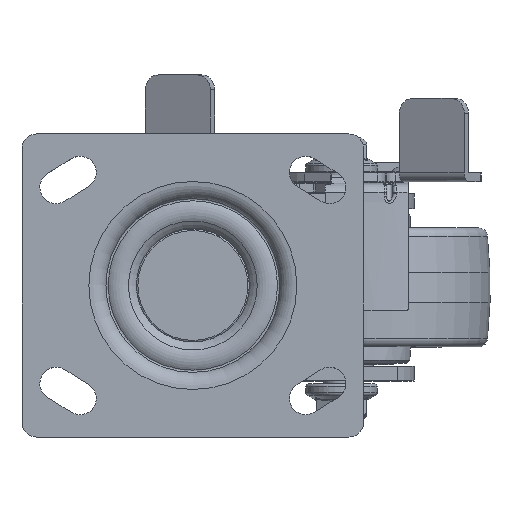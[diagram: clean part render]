
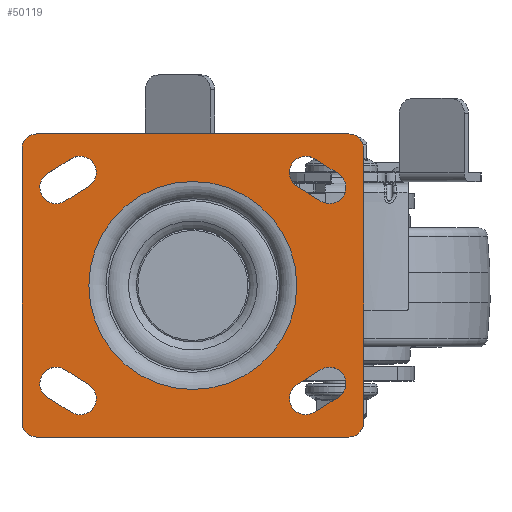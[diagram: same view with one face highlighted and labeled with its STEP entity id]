
A CAD part, top view. The second image highlights one B-rep face of the part: STEP entity #50119.
In plain terms, the highlighted planar face has unit normal (0, 0, 1).
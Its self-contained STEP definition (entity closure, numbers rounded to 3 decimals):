
#48862=CARTESIAN_POINT('',(-96.,576.541,6.899));
#48863=VERTEX_POINT('',#48862);
#48870=CARTESIAN_POINT('',(-88.,571.541,6.899));
#48871=VERTEX_POINT('',#48870);
#48872=CARTESIAN_POINT('',(-88.,571.541,6.899));
#48873=DIRECTION('',(-0.848,0.53,0.0));
#48874=VECTOR('',#48873,9.434);
#48875=LINE('',#48872,#48874);
#48876=EDGE_CURVE('',#48871,#48863,#48875,.T.);
#48902=CARTESIAN_POINT('',(-82.17,580.869,6.899));
#48903=VERTEX_POINT('',#48902);
#48904=CARTESIAN_POINT('',(-85.085,576.205,6.899));
#48905=DIRECTION('',(0.0,0.0,-1.0));
#48906=DIRECTION('',(1.0,0.0,0.0));
#48907=AXIS2_PLACEMENT_3D('',#48904,#48905,#48906);
#48908=CIRCLE('',#48907,5.5);
#48909=EDGE_CURVE('',#48903,#48871,#48908,.T.);
#48934=CARTESIAN_POINT('',(-90.17,585.869,6.899));
#48935=VERTEX_POINT('',#48934);
#48936=CARTESIAN_POINT('',(-90.17,585.869,6.899));
#48937=DIRECTION('',(0.848,-0.53,0.0));
#48938=VECTOR('',#48937,9.434);
#48939=LINE('',#48936,#48938);
#48940=EDGE_CURVE('',#48935,#48903,#48939,.T.);
#48964=CARTESIAN_POINT('',(-93.085,581.205,6.899));
#48965=DIRECTION('',(0.0,0.0,-1.0));
#48966=DIRECTION('',(1.0,0.0,0.0));
#48967=AXIS2_PLACEMENT_3D('',#48964,#48965,#48966);
#48968=CIRCLE('',#48967,5.5);
#48969=EDGE_CURVE('',#48863,#48935,#48968,.T.);
#48991=CARTESIAN_POINT('',(-73.585,497.205,6.899));
#48992=VERTEX_POINT('',#48991);
#48999=CARTESIAN_POINT('',(-78.585,492.205,6.899));
#49000=VERTEX_POINT('',#48999);
#49001=CARTESIAN_POINT('',(-78.585,497.205,6.899));
#49002=DIRECTION('',(0.0,0.0,1.0));
#49003=DIRECTION('',(1.0,0.0,0.0));
#49004=AXIS2_PLACEMENT_3D('',#49001,#49002,#49003);
#49005=CIRCLE('',#49004,5.0);
#49006=EDGE_CURVE('',#49000,#48992,#49005,.T.);
#49031=CARTESIAN_POINT('',(-183.585,492.205,6.899));
#49032=VERTEX_POINT('',#49031);
#49033=CARTESIAN_POINT('',(-183.585,492.205,6.899));
#49034=DIRECTION('',(1.0,0.0,0.0));
#49035=VECTOR('',#49034,105.0);
#49036=LINE('',#49033,#49035);
#49037=EDGE_CURVE('',#49032,#49000,#49036,.T.);
#49063=CARTESIAN_POINT('',(-188.585,497.205,6.899));
#49064=VERTEX_POINT('',#49063);
#49065=CARTESIAN_POINT('',(-183.585,497.205,6.899));
#49066=DIRECTION('',(0.0,0.0,1.0));
#49067=DIRECTION('',(1.0,0.0,0.0));
#49068=AXIS2_PLACEMENT_3D('',#49065,#49066,#49067);
#49069=CIRCLE('',#49068,5.0);
#49070=EDGE_CURVE('',#49064,#49032,#49069,.T.);
#49095=CARTESIAN_POINT('',(-188.585,589.205,6.899));
#49096=VERTEX_POINT('',#49095);
#49097=CARTESIAN_POINT('',(-188.585,589.205,6.899));
#49098=DIRECTION('',(0.0,-1.0,0.0));
#49099=VECTOR('',#49098,92.);
#49100=LINE('',#49097,#49099);
#49101=EDGE_CURVE('',#49096,#49064,#49100,.T.);
#49127=CARTESIAN_POINT('',(-183.585,594.205,6.899));
#49128=VERTEX_POINT('',#49127);
#49129=CARTESIAN_POINT('',(-183.585,589.205,6.899));
#49130=DIRECTION('',(0.0,0.0,1.0));
#49131=DIRECTION('',(1.0,0.0,0.0));
#49132=AXIS2_PLACEMENT_3D('',#49129,#49130,#49131);
#49133=CIRCLE('',#49132,5.0);
#49134=EDGE_CURVE('',#49128,#49096,#49133,.T.);
#49159=CARTESIAN_POINT('',(-78.585,594.205,6.899));
#49160=VERTEX_POINT('',#49159);
#49161=CARTESIAN_POINT('',(-78.585,594.205,6.899));
#49162=DIRECTION('',(-1.0,0.0,0.0));
#49163=VECTOR('',#49162,105.0);
#49164=LINE('',#49161,#49163);
#49165=EDGE_CURVE('',#49160,#49128,#49164,.T.);
#49191=CARTESIAN_POINT('',(-73.585,589.205,6.899));
#49192=VERTEX_POINT('',#49191);
#49193=CARTESIAN_POINT('',(-78.585,589.205,6.899));
#49194=DIRECTION('',(0.0,0.0,1.0));
#49195=DIRECTION('',(1.0,0.0,0.0));
#49196=AXIS2_PLACEMENT_3D('',#49193,#49194,#49195);
#49197=CIRCLE('',#49196,5.0);
#49198=EDGE_CURVE('',#49192,#49160,#49197,.T.);
#49221=CARTESIAN_POINT('',(-73.585,497.205,6.899));
#49222=DIRECTION('',(0.0,1.0,0.0));
#49223=VECTOR('',#49222,92.);
#49224=LINE('',#49221,#49223);
#49225=EDGE_CURVE('',#48992,#49192,#49224,.T.);
#49246=CARTESIAN_POINT('',(-166.17,509.869,6.899));
#49247=VERTEX_POINT('',#49246);
#49254=CARTESIAN_POINT('',(-174.17,514.869,6.899));
#49255=VERTEX_POINT('',#49254);
#49256=CARTESIAN_POINT('',(-174.17,514.869,6.899));
#49257=DIRECTION('',(0.848,-0.53,0.0));
#49258=VECTOR('',#49257,9.434);
#49259=LINE('',#49256,#49258);
#49260=EDGE_CURVE('',#49255,#49247,#49259,.T.);
#49286=CARTESIAN_POINT('',(-180.,505.541,6.899));
#49287=VERTEX_POINT('',#49286);
#49288=CARTESIAN_POINT('',(-177.085,510.205,6.899));
#49289=DIRECTION('',(0.0,0.0,-1.0));
#49290=DIRECTION('',(1.0,0.0,0.0));
#49291=AXIS2_PLACEMENT_3D('',#49288,#49289,#49290);
#49292=CIRCLE('',#49291,5.5);
#49293=EDGE_CURVE('',#49287,#49255,#49292,.T.);
#49318=CARTESIAN_POINT('',(-172.,500.541,6.899));
#49319=VERTEX_POINT('',#49318);
#49320=CARTESIAN_POINT('',(-172.,500.541,6.899));
#49321=DIRECTION('',(-0.848,0.53,0.0));
#49322=VECTOR('',#49321,9.434);
#49323=LINE('',#49320,#49322);
#49324=EDGE_CURVE('',#49319,#49287,#49323,.T.);
#49348=CARTESIAN_POINT('',(-169.085,505.205,6.899));
#49349=DIRECTION('',(0.0,0.0,-1.0));
#49350=DIRECTION('',(1.0,0.0,0.0));
#49351=AXIS2_PLACEMENT_3D('',#49348,#49349,#49350);
#49352=CIRCLE('',#49351,5.5);
#49353=EDGE_CURVE('',#49247,#49319,#49352,.T.);
#49374=CARTESIAN_POINT('',(-172.,585.869,6.899));
#49375=VERTEX_POINT('',#49374);
#49382=CARTESIAN_POINT('',(-180.,580.869,6.899));
#49383=VERTEX_POINT('',#49382);
#49384=CARTESIAN_POINT('',(-180.,580.869,6.899));
#49385=DIRECTION('',(0.848,0.53,0.0));
#49386=VECTOR('',#49385,9.434);
#49387=LINE('',#49384,#49386);
#49388=EDGE_CURVE('',#49383,#49375,#49387,.T.);
#49414=CARTESIAN_POINT('',(-174.17,571.541,6.899));
#49415=VERTEX_POINT('',#49414);
#49416=CARTESIAN_POINT('',(-177.085,576.205,6.899));
#49417=DIRECTION('',(0.0,0.0,-1.0));
#49418=DIRECTION('',(1.0,0.0,0.0));
#49419=AXIS2_PLACEMENT_3D('',#49416,#49417,#49418);
#49420=CIRCLE('',#49419,5.5);
#49421=EDGE_CURVE('',#49415,#49383,#49420,.T.);
#49446=CARTESIAN_POINT('',(-166.17,576.541,6.899));
#49447=VERTEX_POINT('',#49446);
#49448=CARTESIAN_POINT('',(-166.17,576.541,6.899));
#49449=DIRECTION('',(-0.848,-0.53,0.0));
#49450=VECTOR('',#49449,9.434);
#49451=LINE('',#49448,#49450);
#49452=EDGE_CURVE('',#49447,#49415,#49451,.T.);
#49476=CARTESIAN_POINT('',(-169.085,581.205,6.899));
#49477=DIRECTION('',(0.0,0.0,-1.0));
#49478=DIRECTION('',(1.0,0.0,0.0));
#49479=AXIS2_PLACEMENT_3D('',#49476,#49477,#49478);
#49480=CIRCLE('',#49479,5.5);
#49481=EDGE_CURVE('',#49375,#49447,#49480,.T.);
#49567=CARTESIAN_POINT('',(-90.17,500.541,6.899));
#49568=VERTEX_POINT('',#49567);
#49575=CARTESIAN_POINT('',(-82.17,505.541,6.899));
#49576=VERTEX_POINT('',#49575);
#49577=CARTESIAN_POINT('',(-82.17,505.541,6.899));
#49578=DIRECTION('',(-0.848,-0.53,0.0));
#49579=VECTOR('',#49578,9.434);
#49580=LINE('',#49577,#49579);
#49581=EDGE_CURVE('',#49576,#49568,#49580,.T.);
#49607=CARTESIAN_POINT('',(-88.,514.869,6.899));
#49608=VERTEX_POINT('',#49607);
#49609=CARTESIAN_POINT('',(-85.085,510.205,6.899));
#49610=DIRECTION('',(0.0,0.0,-1.0));
#49611=DIRECTION('',(1.0,0.0,0.0));
#49612=AXIS2_PLACEMENT_3D('',#49609,#49610,#49611);
#49613=CIRCLE('',#49612,5.5);
#49614=EDGE_CURVE('',#49608,#49576,#49613,.T.);
#49639=CARTESIAN_POINT('',(-96.,509.869,6.899));
#49640=VERTEX_POINT('',#49639);
#49641=CARTESIAN_POINT('',(-96.,509.869,6.899));
#49642=DIRECTION('',(0.848,0.53,0.0));
#49643=VECTOR('',#49642,9.434);
#49644=LINE('',#49641,#49643);
#49645=EDGE_CURVE('',#49640,#49608,#49644,.T.);
#49669=CARTESIAN_POINT('',(-93.085,505.205,6.899));
#49670=DIRECTION('',(0.0,0.0,-1.0));
#49671=DIRECTION('',(1.0,0.0,0.0));
#49672=AXIS2_PLACEMENT_3D('',#49669,#49670,#49671);
#49673=CIRCLE('',#49672,5.5);
#49674=EDGE_CURVE('',#49568,#49640,#49673,.T.);
#50062=CARTESIAN_POINT('',(-96.085,543.205,6.899));
#50063=VERTEX_POINT('',#50062);
#50064=CARTESIAN_POINT('',(-131.085,543.205,6.899));
#50065=DIRECTION('',(0.0,0.0,-1.0));
#50066=DIRECTION('',(1.0,0.0,0.0));
#50067=AXIS2_PLACEMENT_3D('',#50064,#50065,#50066);
#50068=CIRCLE('',#50067,35.);
#50069=EDGE_CURVE('',#50063,#50063,#50068,.T.);
#50077=CARTESIAN_POINT('',(-63.585,543.205,6.899));
#50078=DIRECTION('',(0.0,0.0,1.0));
#50079=DIRECTION('',(1.0,0.0,0.0));
#50080=AXIS2_PLACEMENT_3D('',#50077,#50078,#50079);
#50081=PLANE('',#50080);
#50082=ORIENTED_EDGE('',*,*,#49134,.T.);
#50083=ORIENTED_EDGE('',*,*,#49101,.T.);
#50084=ORIENTED_EDGE('',*,*,#49070,.T.);
#50085=ORIENTED_EDGE('',*,*,#49037,.T.);
#50086=ORIENTED_EDGE('',*,*,#49006,.T.);
#50087=ORIENTED_EDGE('',*,*,#49225,.T.);
#50088=ORIENTED_EDGE('',*,*,#49198,.T.);
#50089=ORIENTED_EDGE('',*,*,#49165,.T.);
#50090=EDGE_LOOP('',(#50082,#50083,#50084,#50085,#50086,#50087,#50088,#50089));
#50091=FACE_OUTER_BOUND('',#50090,.T.);
#50092=ORIENTED_EDGE('',*,*,#48940,.T.);
#50093=ORIENTED_EDGE('',*,*,#48909,.T.);
#50094=ORIENTED_EDGE('',*,*,#48876,.T.);
#50095=ORIENTED_EDGE('',*,*,#48969,.T.);
#50096=EDGE_LOOP('',(#50092,#50093,#50094,#50095));
#50097=FACE_BOUND('',#50096,.T.);
#50098=ORIENTED_EDGE('',*,*,#49324,.T.);
#50099=ORIENTED_EDGE('',*,*,#49293,.T.);
#50100=ORIENTED_EDGE('',*,*,#49260,.T.);
#50101=ORIENTED_EDGE('',*,*,#49353,.T.);
#50102=EDGE_LOOP('',(#50098,#50099,#50100,#50101));
#50103=FACE_BOUND('',#50102,.T.);
#50104=ORIENTED_EDGE('',*,*,#49452,.T.);
#50105=ORIENTED_EDGE('',*,*,#49421,.T.);
#50106=ORIENTED_EDGE('',*,*,#49388,.T.);
#50107=ORIENTED_EDGE('',*,*,#49481,.T.);
#50108=EDGE_LOOP('',(#50104,#50105,#50106,#50107));
#50109=FACE_BOUND('',#50108,.T.);
#50110=ORIENTED_EDGE('',*,*,#49645,.T.);
#50111=ORIENTED_EDGE('',*,*,#49614,.T.);
#50112=ORIENTED_EDGE('',*,*,#49581,.T.);
#50113=ORIENTED_EDGE('',*,*,#49674,.T.);
#50114=EDGE_LOOP('',(#50110,#50111,#50112,#50113));
#50115=FACE_BOUND('',#50114,.T.);
#50116=ORIENTED_EDGE('',*,*,#50069,.T.);
#50117=EDGE_LOOP('',(#50116));
#50118=FACE_BOUND('',#50117,.T.);
#50119=ADVANCED_FACE('',(#50091,#50097,#50103,#50109,#50115,#50118),#50081,.T.);
